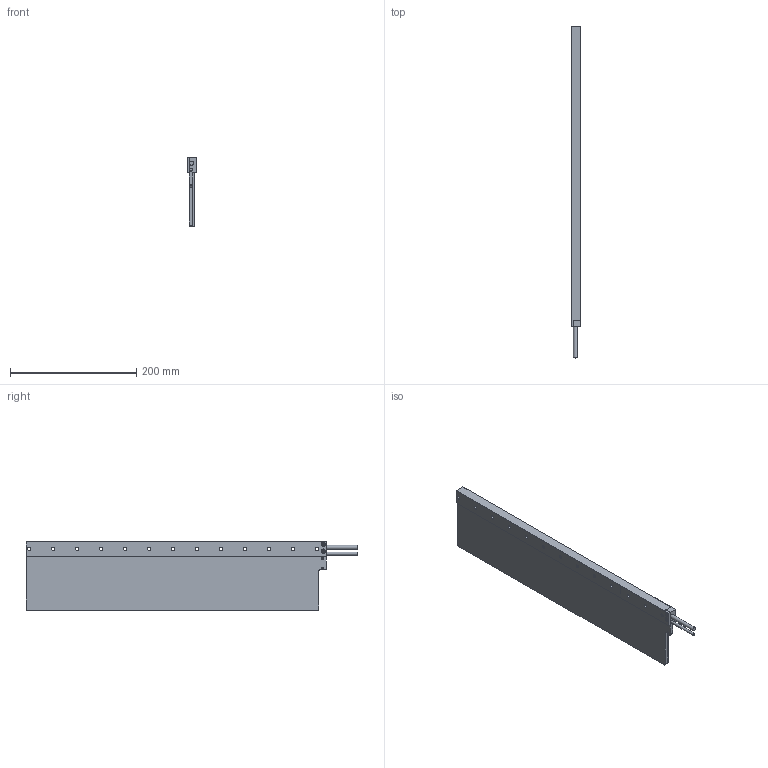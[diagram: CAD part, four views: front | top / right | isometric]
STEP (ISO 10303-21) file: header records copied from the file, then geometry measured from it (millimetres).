
FILE_DESCRIPTION( ( 'Unknown' ), '1' );
FILE_NAME( 'G:/Persoonlijk/kleferink/stepfiles dtd/Iron Less_UX_12_CoilUnit_CAD_131212.stp', 'Unknown', ( 'Unknown' ), ( 'Unknown' ), 'PSStep 14.0', 'Unknown', ' ' );
FILE_SCHEMA( ( 'AUTOMOTIVE_DESIGN { 1 0 10303 214 1 1 1 1 }' ) );
Length unit declared in the file: millimetre
Products named in the file (8): Assem1; Giethars 12; 4022 363 35081; 4022 363 35081-oa0; 4022 363 40121; 4022 363 05431_130513; 0722 215 03025; 2522 203 04025
Assembly tree (8 placements, depth 2):
  Assem1
    Giethars 12
    4022 363 35081
    4022 363 35081-oa0
    4022 363 40121
    4022 363 05431_130513
    0722 215 03025
    2522 203 04025  x2
Bounding box: 15 x 526 x 108.8 mm (x, y, z)
Volume: 493073.9 mm3; surface area: 174243.2 mm2
Topology: 8 solids, 8 shells, 334 faces, 958 edges, 648 vertices
Faces by surface type: cylinder 190, plane 140, cone 4
Full cylindrical faces by diameter (mm): 1.6 x2, 3 x8, 3.2 x2, 4.3 x1, 4.9 x1, 5.3 x39, 5.7 x2, 6.4 x1, 7 x1
Entity records: 11640 total; most frequent: CARTESIAN_POINT 2476, DIRECTION 1578, ORIENTED_EDGE 1574, EDGE_CURVE 787, AXIS2_PLACEMENT_3D 574, VERTEX_POINT 562, EDGE_LOOP 459, LINE 430
